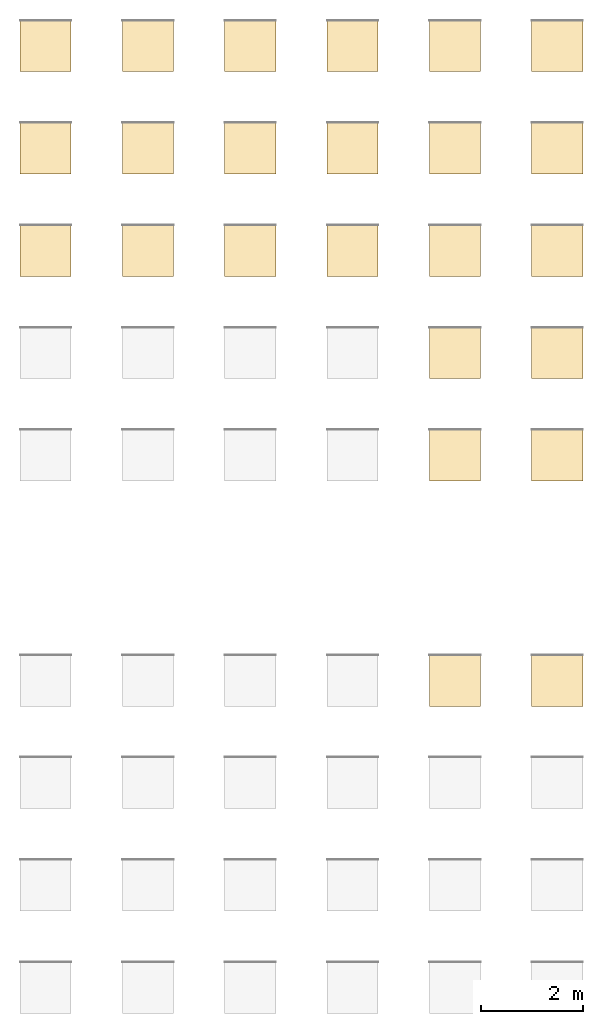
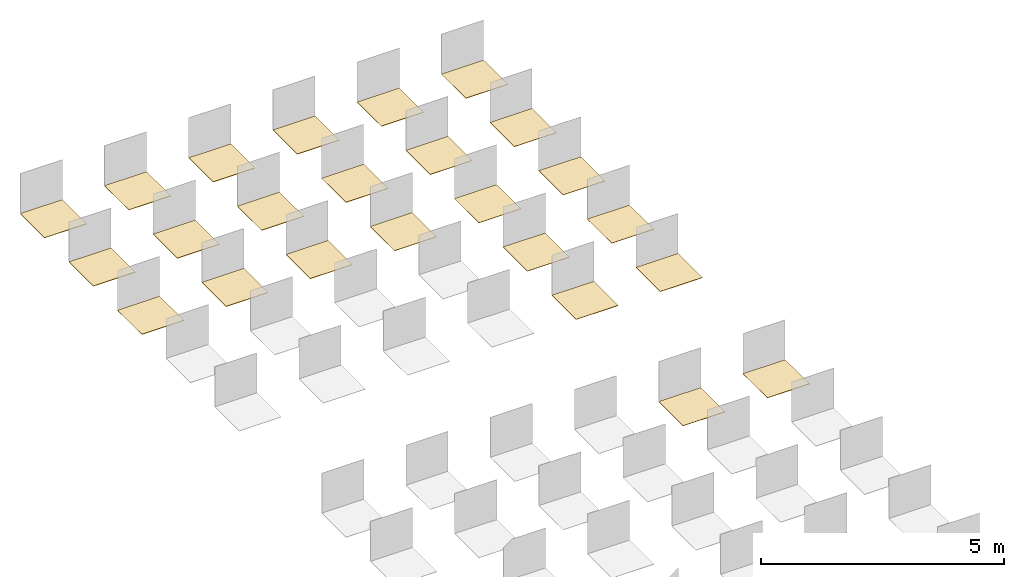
# One storey, part 4 of 4: 24 coverings.
"""IFC2X3 building model written with IfcOpenShell, lengths in millimetres."""

from ifc_helpers import new_model, entity, si_unit, converted_unit, derived_unit, direction, frame, frame_2d, origin, origin_2d_with_axis, place, context, subcontext, project, spatial, rectangle, extrude, material, layer, layer_set, layer_usage, type_object, element, save


model = new_model("IFC2X3")

# Units and contexts
model_context = context("Model", 3, precision=0.01, world=origin(), true_north=direction((6.12303176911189e-17, 1.0)))
body_context = subcontext(model_context, "Body", "Model", "MODEL_VIEW")
ifc_project = project(units=[si_unit("LENGTHUNIT", "METRE", prefix="MILLI"), si_unit("AREAUNIT", "SQUARE_METRE"), si_unit("VOLUMEUNIT", "CUBIC_METRE"), converted_unit("PLANEANGLEUNIT", "DEGREE", entity("IfcRatioMeasure", 0.0174532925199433), si_unit("PLANEANGLEUNIT", "RADIAN"), dimensions=[0, 0, 0, 0, 0, 0, 0]), si_unit("MASSUNIT", "GRAM", prefix="KILO"), derived_unit("MASSDENSITYUNIT", [(si_unit("MASSUNIT", "GRAM", prefix="KILO"), 1), (si_unit("LENGTHUNIT", "METRE"), -3)]), derived_unit("MOMENTOFINERTIAUNIT", [(si_unit("LENGTHUNIT", "METRE"), 4)]), si_unit("TIMEUNIT", "SECOND"), si_unit("FREQUENCYUNIT", "HERTZ"), si_unit("THERMODYNAMICTEMPERATUREUNIT", "DEGREE_CELSIUS"), derived_unit("THERMALTRANSMITTANCEUNIT", [(si_unit("MASSUNIT", "GRAM", prefix="KILO"), 1), (si_unit("THERMODYNAMICTEMPERATUREUNIT", "KELVIN"), -1), (si_unit("TIMEUNIT", "SECOND"), -3)]), derived_unit("VOLUMETRICFLOWRATEUNIT", [(si_unit("LENGTHUNIT", "METRE"), 3), (si_unit("TIMEUNIT", "SECOND"), -1)]), si_unit("ELECTRICCURRENTUNIT", "AMPERE"), si_unit("ELECTRICVOLTAGEUNIT", "VOLT"), si_unit("POWERUNIT", "WATT"), si_unit("FORCEUNIT", "NEWTON", prefix="KILO"), si_unit("ILLUMINANCEUNIT", "LUX"), si_unit("LUMINOUSFLUXUNIT", "LUMEN"), si_unit("LUMINOUSINTENSITYUNIT", "CANDELA"), derived_unit("USERDEFINED", [(si_unit("MASSUNIT", "GRAM", prefix="KILO"), -1), (si_unit("LENGTHUNIT", "METRE"), -2), (si_unit("TIMEUNIT", "SECOND"), 3), (si_unit("LUMINOUSFLUXUNIT", "LUMEN"), 1)]), derived_unit("LINEARVELOCITYUNIT", [(si_unit("LENGTHUNIT", "METRE"), 1), (si_unit("TIMEUNIT", "SECOND"), -1)]), si_unit("PRESSUREUNIT", "PASCAL"), derived_unit("USERDEFINED", [(si_unit("LENGTHUNIT", "METRE"), -2), (si_unit("MASSUNIT", "GRAM", prefix="KILO"), 1), (si_unit("TIMEUNIT", "SECOND"), -2)]), derived_unit("LINEARFORCEUNIT", [(si_unit("MASSUNIT", "GRAM", prefix="KILO"), 1), (si_unit("LENGTHUNIT", "METRE"), 1), (si_unit("TIMEUNIT", "SECOND"), -2), (si_unit("LENGTHUNIT", "METRE"), -1)]), derived_unit("PLANARFORCEUNIT", [(si_unit("MASSUNIT", "GRAM", prefix="KILO"), 1), (si_unit("LENGTHUNIT", "METRE"), 1), (si_unit("TIMEUNIT", "SECOND"), -2), (si_unit("LENGTHUNIT", "METRE"), -2)])], contexts=[model_context])

# Site, building, storey
site_placement = place(None, origin())
site = spatial("IfcSite", under=ifc_project, at=site_placement, Name="Default", CompositionType="ELEMENT")
building_placement = place(site_placement, origin())
building = spatial("IfcBuilding", under=site, at=building_placement, CompositionType="ELEMENT")
storey_placement = place(building_placement, origin())
storey = spatial("IfcBuildingStorey", under=building, at=storey_placement, Name="Level 1", CompositionType="ELEMENT", Elevation=0.0)

# Coverings
ifc_material_1 = material(Name="REVIGRÉS-OMNISTONE-BASE-60x120-MATTRECT-BONE")
ifc_layer_1 = layer(ifc_material_1, 9.8)
ifc_layer_set_1 = layer_set([ifc_layer_1], Name="Floor:REVIGRÉS-OMNISTONE-BASE-60X120-MATTRECT-BONE")
ifc_layer_usage_1 = layer_usage(ifc_layer_set_1, "AXIS3", "POSITIVE", 0.0)
covering_type_1 = type_object("IfcCoveringType", Name="Floor:REVIGRÉS-OMNISTONE-BASE-60X120-MATTRECT-BONE", PredefinedType="CLADDING", material=ifc_layer_set_1)
covering_1_placement = place(storey_placement, origin())
element("IfcCovering", 1, at=covering_1_placement, inside=storey, type_object=covering_type_1, material=ifc_layer_usage_1, Name="Floor:REVIGRÉS-OMNISTONE-BASE-60X120-MATTRECT-BONE", ObjectType="Floor:REVIGRÉS-OMNISTONE-BASE-60X120-MATTRECT-BONE", PredefinedType="CLADDING", context=body_context, shape_type="SweptSolid", body=[
    extrude(rectangle(XDim=1000.0, YDim=1000.0, at=frame_2d((1.08002495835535e-12, 0.0), x_axis=(1.0, 0.0))), frame((508.223884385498, 14311.2034685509, 0.0), z_axis=(0.0, 0.0, -1.0), x_axis=(0.0, 1.0, 0.0)), (0.0, 0.0, 1.0), 9.8),
])
ifc_material_2 = material(Name="REVIGRÉS-OMNISTONE-BASE-45x90-MATTRECT-BONE")
ifc_layer_2 = layer(ifc_material_2, 10.5)
ifc_layer_set_2 = layer_set([ifc_layer_2], Name="Floor:REVIGRÉS-OMNISTONE-BASE-45X90-MATTRECT-BONE")
ifc_layer_usage_2 = layer_usage(ifc_layer_set_2, "AXIS3", "POSITIVE", 0.0)
covering_type_2 = type_object("IfcCoveringType", Name="Floor:REVIGRÉS-OMNISTONE-BASE-45X90-MATTRECT-BONE", PredefinedType="CLADDING", material=ifc_layer_set_2)
covering_2_placement = place(storey_placement, origin())
element("IfcCovering", 2, at=covering_2_placement, inside=storey, type_object=covering_type_2, material=ifc_layer_usage_2, Name="Floor:REVIGRÉS-OMNISTONE-BASE-45X90-MATTRECT-BONE", ObjectType="Floor:REVIGRÉS-OMNISTONE-BASE-45X90-MATTRECT-BONE", PredefinedType="CLADDING", context=body_context, shape_type="SweptSolid", body=[
    extrude(rectangle(XDim=1000.0, YDim=1000.0, at=frame_2d((1.08002495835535e-12, 0.0), x_axis=(1.0, 0.0))), frame((508.223884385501, 16311.2034685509, 0.0), z_axis=(0.0, 0.0, -1.0), x_axis=(0.0, 1.0, 0.0)), (0.0, 0.0, 1.0), 10.5),
])
ifc_material_3 = material(Name="REVIGRÉS-OMNISTONE-BASE-90x90-MATTRECT-BONE")
ifc_layer_3 = layer(ifc_material_3, 10.5)
ifc_layer_set_3 = layer_set([ifc_layer_3], Name="Floor:REVIGRÉS-OMNISTONE-BASE-90X90-MATTRECT-BONE")
ifc_layer_usage_3 = layer_usage(ifc_layer_set_3, "AXIS3", "POSITIVE", 0.0)
covering_type_3 = type_object("IfcCoveringType", Name="Floor:REVIGRÉS-OMNISTONE-BASE-90X90-MATTRECT-BONE", PredefinedType="CLADDING", material=ifc_layer_set_3)
covering_3_placement = place(storey_placement, origin())
element("IfcCovering", 3, at=covering_3_placement, inside=storey, type_object=covering_type_3, material=ifc_layer_usage_3, Name="Floor:REVIGRÉS-OMNISTONE-BASE-90X90-MATTRECT-BONE", ObjectType="Floor:REVIGRÉS-OMNISTONE-BASE-90X90-MATTRECT-BONE", PredefinedType="CLADDING", context=body_context, shape_type="SweptSolid", body=[
    extrude(rectangle(XDim=1000.0, YDim=1000.0, at=frame_2d((1.08002495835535e-12, 0.0), x_axis=(1.0, 0.0))), frame((508.223884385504, 18311.2034685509, 0.0), z_axis=(0.0, 0.0, -1.0), x_axis=(0.0, 1.0, 0.0)), (0.0, 0.0, 1.0), 10.5),
])
ifc_material_4 = material(Name="REVIGRÉS-OMNISTONE-BASE-60x120-SOFT-BONE")
ifc_layer_4 = layer(ifc_material_4, 9.8)
ifc_layer_set_4 = layer_set([ifc_layer_4], Name="Floor:REVIGRÉS-OMNISTONE-BASE-60X120-SOFT-BONE")
ifc_layer_usage_4 = layer_usage(ifc_layer_set_4, "AXIS3", "POSITIVE", 0.0)
covering_type_4 = type_object("IfcCoveringType", Name="Floor:REVIGRÉS-OMNISTONE-BASE-60X120-SOFT-BONE", PredefinedType="CLADDING", material=ifc_layer_set_4)
covering_4_placement = place(storey_placement, origin())
element("IfcCovering", 4, at=covering_4_placement, inside=storey, type_object=covering_type_4, material=ifc_layer_usage_4, Name="Floor:REVIGRÉS-OMNISTONE-BASE-60X120-SOFT-BONE", ObjectType="Floor:REVIGRÉS-OMNISTONE-BASE-60X120-SOFT-BONE", PredefinedType="CLADDING", context=body_context, shape_type="SweptSolid", body=[
    extrude(rectangle(XDim=1000.0, YDim=1000.0, at=frame_2d((1.08002495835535e-12, 2.8421709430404e-13), x_axis=(1.0, 0.0))), frame((2508.22388438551, 14311.2034685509, 0.0), z_axis=(0.0, 0.0, -1.0), x_axis=(0.0, 1.0, 0.0)), (0.0, 0.0, 1.0), 9.8),
])
ifc_material_5 = material(Name="REVIGRÉS-OMNISTONE-BASE-45x90-SOFT-BONE")
ifc_layer_5 = layer(ifc_material_5, 10.5)
ifc_layer_set_5 = layer_set([ifc_layer_5], Name="Floor:REVIGRÉS-OMNISTONE-BASE-45X90-SOFT-BONE")
ifc_layer_usage_5 = layer_usage(ifc_layer_set_5, "AXIS3", "POSITIVE", 0.0)
covering_type_5 = type_object("IfcCoveringType", Name="Floor:REVIGRÉS-OMNISTONE-BASE-45X90-SOFT-BONE", PredefinedType="CLADDING", material=ifc_layer_set_5)
covering_5_placement = place(storey_placement, origin())
element("IfcCovering", 5, at=covering_5_placement, inside=storey, type_object=covering_type_5, material=ifc_layer_usage_5, Name="Floor:REVIGRÉS-OMNISTONE-BASE-45X90-SOFT-BONE", ObjectType="Floor:REVIGRÉS-OMNISTONE-BASE-45X90-SOFT-BONE", PredefinedType="CLADDING", context=body_context, shape_type="SweptSolid", body=[
    extrude(rectangle(XDim=1000.0, YDim=1000.0, at=frame_2d((-1.08002495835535e-12, 2.8421709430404e-13), x_axis=(1.0, 0.0))), frame((2508.22388438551, 16311.2034685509, 0.0), z_axis=(0.0, 0.0, -1.0), x_axis=(0.0, 1.0, 0.0)), (0.0, 0.0, 1.0), 10.5),
])
ifc_material_6 = material(Name="REVIGRÉS-OMNISTONE-BASE-90x90-SOFT-BONE")
ifc_layer_6 = layer(ifc_material_6, 10.5)
ifc_layer_set_6 = layer_set([ifc_layer_6], Name="Floor:REVIGRÉS-OMNISTONE-BASE-90X90-SOFT-BONE")
ifc_layer_usage_6 = layer_usage(ifc_layer_set_6, "AXIS3", "POSITIVE", 0.0)
covering_type_6 = type_object("IfcCoveringType", Name="Floor:REVIGRÉS-OMNISTONE-BASE-90X90-SOFT-BONE", PredefinedType="CLADDING", material=ifc_layer_set_6)
covering_6_placement = place(storey_placement, origin())
element("IfcCovering", 6, at=covering_6_placement, inside=storey, type_object=covering_type_6, material=ifc_layer_usage_6, Name="Floor:REVIGRÉS-OMNISTONE-BASE-90X90-SOFT-BONE", ObjectType="Floor:REVIGRÉS-OMNISTONE-BASE-90X90-SOFT-BONE", PredefinedType="CLADDING", context=body_context, shape_type="SweptSolid", body=[
    extrude(rectangle(XDim=1000.0, YDim=1000.0, at=frame_2d((-1.08002495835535e-12, 2.8421709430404e-13), x_axis=(1.0, 0.0))), frame((2508.22388438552, 18311.2034685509, 0.0), z_axis=(0.0, 0.0, -1.0), x_axis=(0.0, 1.0, 0.0)), (0.0, 0.0, 1.0), 10.5),
])
ifc_material_7 = material(Name="REVIGRÉS-OMNISTONE-BASE-60x120-MATTRECT-ICE")
ifc_layer_7 = layer(ifc_material_7, 9.8)
ifc_layer_set_7 = layer_set([ifc_layer_7], Name="Floor:REVIGRÉS-OMNISTONE-BASE-60X120-MATTRECT-ICE")
ifc_layer_usage_7 = layer_usage(ifc_layer_set_7, "AXIS3", "POSITIVE", 0.0)
covering_type_7 = type_object("IfcCoveringType", Name="Floor:REVIGRÉS-OMNISTONE-BASE-60X120-MATTRECT-ICE", PredefinedType="CLADDING", material=ifc_layer_set_7)
covering_7_placement = place(storey_placement, origin())
element("IfcCovering", 7, at=covering_7_placement, inside=storey, type_object=covering_type_7, material=ifc_layer_usage_7, Name="Floor:REVIGRÉS-OMNISTONE-BASE-60X120-MATTRECT-ICE", ObjectType="Floor:REVIGRÉS-OMNISTONE-BASE-60X120-MATTRECT-ICE", PredefinedType="CLADDING", context=body_context, shape_type="SweptSolid", body=[
    extrude(rectangle(XDim=1000.0, YDim=1000.0, at=frame_2d((1.08002495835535e-12, 0.0), x_axis=(1.0, 0.0))), frame((4508.22388438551, 14311.2034685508, 0.0), z_axis=(0.0, 0.0, -1.0), x_axis=(0.0, 1.0, 0.0)), (0.0, 0.0, 1.0), 9.8),
])
ifc_material_8 = material(Name="REVIGRÉS-OMNISTONE-BASE-45x90-MATTRECT-ICE")
ifc_layer_8 = layer(ifc_material_8, 10.5)
ifc_layer_set_8 = layer_set([ifc_layer_8], Name="Floor:REVIGRÉS-OMNISTONE-BASE-45X90-MATTRECT-ICE")
ifc_layer_usage_8 = layer_usage(ifc_layer_set_8, "AXIS3", "POSITIVE", 0.0)
covering_type_8 = type_object("IfcCoveringType", Name="Floor:REVIGRÉS-OMNISTONE-BASE-45X90-MATTRECT-ICE", PredefinedType="CLADDING", material=ifc_layer_set_8)
covering_8_placement = place(storey_placement, origin())
element("IfcCovering", 8, at=covering_8_placement, inside=storey, type_object=covering_type_8, material=ifc_layer_usage_8, Name="Floor:REVIGRÉS-OMNISTONE-BASE-45X90-MATTRECT-ICE", ObjectType="Floor:REVIGRÉS-OMNISTONE-BASE-45X90-MATTRECT-ICE", PredefinedType="CLADDING", context=body_context, shape_type="SweptSolid", body=[
    extrude(rectangle(XDim=1000.0, YDim=1000.0, at=frame_2d((1.08002495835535e-12, 0.0), x_axis=(1.0, 0.0))), frame((4508.22388438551, 16311.2034685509, 0.0), z_axis=(0.0, 0.0, -1.0), x_axis=(0.0, 1.0, 0.0)), (0.0, 0.0, 1.0), 10.5),
])
ifc_material_9 = material(Name="REVIGRÉS-OMNISTONE-BASE-90x90-MATTRECT-ICE")
ifc_layer_9 = layer(ifc_material_9, 10.5)
ifc_layer_set_9 = layer_set([ifc_layer_9], Name="Floor:REVIGRÉS-OMNISTONE-BASE-90X90-MATTRECT-ICE")
ifc_layer_usage_9 = layer_usage(ifc_layer_set_9, "AXIS3", "POSITIVE", 0.0)
covering_type_9 = type_object("IfcCoveringType", Name="Floor:REVIGRÉS-OMNISTONE-BASE-90X90-MATTRECT-ICE", PredefinedType="CLADDING", material=ifc_layer_set_9)
covering_9_placement = place(storey_placement, origin())
element("IfcCovering", 9, at=covering_9_placement, inside=storey, type_object=covering_type_9, material=ifc_layer_usage_9, Name="Floor:REVIGRÉS-OMNISTONE-BASE-90X90-MATTRECT-ICE", ObjectType="Floor:REVIGRÉS-OMNISTONE-BASE-90X90-MATTRECT-ICE", PredefinedType="CLADDING", context=body_context, shape_type="SweptSolid", body=[
    extrude(rectangle(XDim=1000.0, YDim=1000.0, at=frame_2d((1.08002495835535e-12, 0.0), x_axis=(1.0, 0.0))), frame((4508.22388438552, 18311.2034685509, 0.0), z_axis=(0.0, 0.0, -1.0), x_axis=(0.0, 1.0, 0.0)), (0.0, 0.0, 1.0), 10.5),
])
ifc_material_10 = material(Name="REVIGRÉS-OMNISTONE-BASE-60x120-SOFT-ICE")
ifc_layer_10 = layer(ifc_material_10, 9.8)
ifc_layer_set_10 = layer_set([ifc_layer_10], Name="Floor:REVIGRÉS-OMNISTONE-BASE-60X120-SOFT-ICE")
ifc_layer_usage_10 = layer_usage(ifc_layer_set_10, "AXIS3", "POSITIVE", 0.0)
covering_type_10 = type_object("IfcCoveringType", Name="Floor:REVIGRÉS-OMNISTONE-BASE-60X120-SOFT-ICE", PredefinedType="CLADDING", material=ifc_layer_set_10)
covering_10_placement = place(storey_placement, origin())
element("IfcCovering", 10, at=covering_10_placement, inside=storey, type_object=covering_type_10, material=ifc_layer_usage_10, Name="Floor:REVIGRÉS-OMNISTONE-BASE-60X120-SOFT-ICE", ObjectType="Floor:REVIGRÉS-OMNISTONE-BASE-60X120-SOFT-ICE", PredefinedType="CLADDING", context=body_context, shape_type="SweptSolid", body=[
    extrude(rectangle(XDim=1000.0, YDim=999.999999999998, at=frame_2d((1.08002495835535e-12, 0.0), x_axis=(1.0, 0.0))), frame((6508.22388438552, 14311.2034685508, 0.0), z_axis=(0.0, 0.0, -1.0), x_axis=(0.0, 1.0, 0.0)), (0.0, 0.0, 1.0), 9.8),
])
ifc_material_11 = material(Name="REVIGRÉS-OMNISTONE-BASE-45x90-SOFT-ICE")
ifc_layer_11 = layer(ifc_material_11, 10.5)
ifc_layer_set_11 = layer_set([ifc_layer_11], Name="Floor:REVIGRÉS-OMNISTONE-BASE-45X90-SOFT-ICE")
ifc_layer_usage_11 = layer_usage(ifc_layer_set_11, "AXIS3", "POSITIVE", 0.0)
covering_type_11 = type_object("IfcCoveringType", Name="Floor:REVIGRÉS-OMNISTONE-BASE-45X90-SOFT-ICE", PredefinedType="CLADDING", material=ifc_layer_set_11)
covering_11_placement = place(storey_placement, origin())
element("IfcCovering", 11, at=covering_11_placement, inside=storey, type_object=covering_type_11, material=ifc_layer_usage_11, Name="Floor:REVIGRÉS-OMNISTONE-BASE-45X90-SOFT-ICE", ObjectType="Floor:REVIGRÉS-OMNISTONE-BASE-45X90-SOFT-ICE", PredefinedType="CLADDING", context=body_context, shape_type="SweptSolid", body=[
    extrude(rectangle(XDim=1000.0, YDim=1000.0, at=frame_2d((1.08002495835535e-12, 0.0), x_axis=(1.0, 0.0))), frame((6508.22388438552, 16311.2034685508, 0.0), z_axis=(0.0, 0.0, -1.0), x_axis=(0.0, 1.0, 0.0)), (0.0, 0.0, 1.0), 10.5),
])
ifc_material_12 = material(Name="REVIGRÉS-OMNISTONE-BASE-90x90-SOFT-ICE")
ifc_layer_12 = layer(ifc_material_12, 10.5)
ifc_layer_set_12 = layer_set([ifc_layer_12], Name="Floor:REVIGRÉS-OMNISTONE-BASE-90X90-SOFT-ICE")
ifc_layer_usage_12 = layer_usage(ifc_layer_set_12, "AXIS3", "POSITIVE", 0.0)
covering_type_12 = type_object("IfcCoveringType", Name="Floor:REVIGRÉS-OMNISTONE-BASE-90X90-SOFT-ICE", PredefinedType="CLADDING", material=ifc_layer_set_12)
covering_12_placement = place(storey_placement, origin())
element("IfcCovering", 12, at=covering_12_placement, inside=storey, type_object=covering_type_12, material=ifc_layer_usage_12, Name="Floor:REVIGRÉS-OMNISTONE-BASE-90X90-SOFT-ICE", ObjectType="Floor:REVIGRÉS-OMNISTONE-BASE-90X90-SOFT-ICE", PredefinedType="CLADDING", context=body_context, shape_type="SweptSolid", body=[
    extrude(rectangle(XDim=1000.0, YDim=1000.0, at=frame_2d((1.08002495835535e-12, 0.0), x_axis=(1.0, 0.0))), frame((6508.22388438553, 18311.2034685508, 0.0), z_axis=(0.0, 0.0, -1.0), x_axis=(0.0, 1.0, 0.0)), (0.0, 0.0, 1.0), 10.5),
])
ifc_material_13 = material(Name="REVIGRÉS-OMNISTONE-BASE-30x60-MATTRECT-IRON")
ifc_layer_13 = layer(ifc_material_13, 9.8)
ifc_layer_set_13 = layer_set([ifc_layer_13], Name="Floor:REVIGRÉS-OMNISTONE-BASE-30X60-MATTRECT-IRON")
ifc_layer_usage_13 = layer_usage(ifc_layer_set_13, "AXIS3", "POSITIVE", 0.0)
covering_type_13 = type_object("IfcCoveringType", Name="Floor:REVIGRÉS-OMNISTONE-BASE-30X60-MATTRECT-IRON", PredefinedType="CLADDING", material=ifc_layer_set_13)
covering_13_placement = place(storey_placement, origin())
element("IfcCovering", 13, at=covering_13_placement, inside=storey, type_object=covering_type_13, material=ifc_layer_usage_13, Name="Floor:REVIGRÉS-OMNISTONE-BASE-30X60-MATTRECT-IRON", ObjectType="Floor:REVIGRÉS-OMNISTONE-BASE-30X60-MATTRECT-IRON", PredefinedType="CLADDING", context=body_context, shape_type="SweptSolid", body=[
    extrude(rectangle(XDim=1000.0, YDim=999.999999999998, at=frame_2d((-1.08002495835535e-12, 0.0), x_axis=(1.0, 0.0))), frame((8508.22388438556, 10311.2034685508, 0.0), z_axis=(0.0, 0.0, -1.0), x_axis=(0.0, 1.0, 0.0)), (0.0, 0.0, 1.0), 9.8),
])
ifc_material_14 = material(Name="REVIGRÉS-OMNISTONE-BASE-60x60-MATTRECT-IRON")
ifc_layer_14 = layer(ifc_material_14, 9.8)
ifc_layer_set_14 = layer_set([ifc_layer_14], Name="Floor:REVIGRÉS-OMNISTONE-BASE-60X60-MATTRECT-IRON")
ifc_layer_usage_14 = layer_usage(ifc_layer_set_14, "AXIS3", "POSITIVE", 0.0)
covering_type_14 = type_object("IfcCoveringType", Name="Floor:REVIGRÉS-OMNISTONE-BASE-60X60-MATTRECT-IRON", PredefinedType="CLADDING", material=ifc_layer_set_14)
covering_14_placement = place(storey_placement, origin())
element("IfcCovering", 14, at=covering_14_placement, inside=storey, type_object=covering_type_14, material=ifc_layer_usage_14, Name="Floor:REVIGRÉS-OMNISTONE-BASE-60X60-MATTRECT-IRON", ObjectType="Floor:REVIGRÉS-OMNISTONE-BASE-60X60-MATTRECT-IRON", PredefinedType="CLADDING", context=body_context, shape_type="SweptSolid", body=[
    extrude(rectangle(XDim=1000.0, YDim=1000.0, at=frame_2d((-1.08002495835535e-12, 0.0), x_axis=(1.0, 0.0))), frame((8508.22388438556, 12311.2034685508, 0.0), z_axis=(0.0, 0.0, -1.0), x_axis=(0.0, 1.0, 0.0)), (0.0, 0.0, 1.0), 9.8),
])
ifc_material_15 = material(Name="REVIGRÉS-OMNISTONE-BASE-60x120-MATTRECT-IRON")
ifc_layer_15 = layer(ifc_material_15, 9.8)
ifc_layer_set_15 = layer_set([ifc_layer_15], Name="Floor:REVIGRÉS-OMNISTONE-BASE-60X120-MATTRECT-IRON")
ifc_layer_usage_15 = layer_usage(ifc_layer_set_15, "AXIS3", "POSITIVE", 0.0)
covering_type_15 = type_object("IfcCoveringType", Name="Floor:REVIGRÉS-OMNISTONE-BASE-60X120-MATTRECT-IRON", PredefinedType="CLADDING", material=ifc_layer_set_15)
covering_15_placement = place(storey_placement, origin())
element("IfcCovering", 15, at=covering_15_placement, inside=storey, type_object=covering_type_15, material=ifc_layer_usage_15, Name="Floor:REVIGRÉS-OMNISTONE-BASE-60X120-MATTRECT-IRON", ObjectType="Floor:REVIGRÉS-OMNISTONE-BASE-60X120-MATTRECT-IRON", PredefinedType="CLADDING", context=body_context, shape_type="SweptSolid", body=[
    extrude(rectangle(XDim=1000.0, YDim=1000.0, at=frame_2d((1.08002495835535e-12, 0.0), x_axis=(1.0, 0.0))), frame((8508.22388438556, 14311.2034685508, 0.0), z_axis=(0.0, 0.0, -1.0), x_axis=(0.0, 1.0, 0.0)), (0.0, 0.0, 1.0), 9.8),
])
ifc_material_16 = material(Name="REVIGRÉS-OMNISTONE-BASE-45x90-MATTRECT-IRON")
ifc_layer_16 = layer(ifc_material_16, 10.5)
ifc_layer_set_16 = layer_set([ifc_layer_16], Name="Floor:REVIGRÉS-OMNISTONE-BASE-45X90-MATTRECT-IRON")
ifc_layer_usage_16 = layer_usage(ifc_layer_set_16, "AXIS3", "POSITIVE", 0.0)
covering_type_16 = type_object("IfcCoveringType", Name="Floor:REVIGRÉS-OMNISTONE-BASE-45X90-MATTRECT-IRON", PredefinedType="CLADDING", material=ifc_layer_set_16)
covering_16_placement = place(storey_placement, origin())
element("IfcCovering", 16, at=covering_16_placement, inside=storey, type_object=covering_type_16, material=ifc_layer_usage_16, Name="Floor:REVIGRÉS-OMNISTONE-BASE-45X90-MATTRECT-IRON", ObjectType="Floor:REVIGRÉS-OMNISTONE-BASE-45X90-MATTRECT-IRON", PredefinedType="CLADDING", context=body_context, shape_type="SweptSolid", body=[
    extrude(rectangle(XDim=1000.0, YDim=1000.0, at=frame_2d((1.08002495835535e-12, 0.0), x_axis=(1.0, 0.0))), frame((8508.22388438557, 16311.2034685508, 0.0), z_axis=(0.0, 0.0, -1.0), x_axis=(0.0, 1.0, 0.0)), (0.0, 0.0, 1.0), 10.5),
])
ifc_material_17 = material(Name="REVIGRÉS-OMNISTONE-BASE-90x90-MATTRECT-IRON")
ifc_layer_17 = layer(ifc_material_17, 10.5)
ifc_layer_set_17 = layer_set([ifc_layer_17], Name="Floor:REVIGRÉS-OMNISTONE-BASE-90X90-MATTRECT-IRON")
ifc_layer_usage_17 = layer_usage(ifc_layer_set_17, "AXIS3", "POSITIVE", 0.0)
covering_type_17 = type_object("IfcCoveringType", Name="Floor:REVIGRÉS-OMNISTONE-BASE-90X90-MATTRECT-IRON", PredefinedType="CLADDING", material=ifc_layer_set_17)
covering_17_placement = place(storey_placement, origin())
element("IfcCovering", 17, at=covering_17_placement, inside=storey, type_object=covering_type_17, material=ifc_layer_usage_17, Name="Floor:REVIGRÉS-OMNISTONE-BASE-90X90-MATTRECT-IRON", ObjectType="Floor:REVIGRÉS-OMNISTONE-BASE-90X90-MATTRECT-IRON", PredefinedType="CLADDING", context=body_context, shape_type="SweptSolid", body=[
    extrude(rectangle(XDim=1000.0, YDim=999.999999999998, at=frame_2d((1.08002495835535e-12, 0.0), x_axis=(1.0, 0.0))), frame((8508.22388438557, 18311.2034685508, 0.0), z_axis=(0.0, 0.0, -1.0), x_axis=(0.0, 1.0, 0.0)), (0.0, 0.0, 1.0), 10.5),
])
ifc_material_18 = material(Name="REVIGRÉS-OMNISTONE-BASE-30x60-SOFT-IRON")
ifc_layer_18 = layer(ifc_material_18, 9.8)
ifc_layer_set_18 = layer_set([ifc_layer_18], Name="Floor:REVIGRÉS-OMNISTONE-BASE-30X60-SOFT-IRON")
ifc_layer_usage_18 = layer_usage(ifc_layer_set_18, "AXIS3", "POSITIVE", 0.0)
covering_type_18 = type_object("IfcCoveringType", Name="Floor:REVIGRÉS-OMNISTONE-BASE-30X60-SOFT-IRON", PredefinedType="CLADDING", material=ifc_layer_set_18)
covering_18_placement = place(storey_placement, origin())
element("IfcCovering", 18, at=covering_18_placement, inside=storey, type_object=covering_type_18, material=ifc_layer_usage_18, Name="Floor:REVIGRÉS-OMNISTONE-BASE-30X60-SOFT-IRON", ObjectType="Floor:REVIGRÉS-OMNISTONE-BASE-30X60-SOFT-IRON", PredefinedType="CLADDING", context=body_context, shape_type="SweptSolid", body=[
    extrude(rectangle(XDim=1000.0, YDim=999.999999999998, at=frame_2d((-1.08002495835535e-12, 0.0), x_axis=(1.0, 0.0))), frame((10508.2238843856, 10311.2034685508, 0.0), z_axis=(0.0, 0.0, -1.0), x_axis=(0.0, 1.0, 0.0)), (0.0, 0.0, 1.0), 9.8),
])
ifc_material_19 = material(Name="REVIGRÉS-OMNISTONE-BASE-60x60-SOFT-IRON")
ifc_layer_19 = layer(ifc_material_19, 9.8)
ifc_layer_set_19 = layer_set([ifc_layer_19], Name="Floor:REVIGRÉS-OMNISTONE-BASE-60X60-SOFT-IRON")
ifc_layer_usage_19 = layer_usage(ifc_layer_set_19, "AXIS3", "POSITIVE", 0.0)
covering_type_19 = type_object("IfcCoveringType", Name="Floor:REVIGRÉS-OMNISTONE-BASE-60X60-SOFT-IRON", PredefinedType="CLADDING", material=ifc_layer_set_19)
covering_19_placement = place(storey_placement, origin())
element("IfcCovering", 19, at=covering_19_placement, inside=storey, type_object=covering_type_19, material=ifc_layer_usage_19, Name="Floor:REVIGRÉS-OMNISTONE-BASE-60X60-SOFT-IRON", ObjectType="Floor:REVIGRÉS-OMNISTONE-BASE-60X60-SOFT-IRON", PredefinedType="CLADDING", context=body_context, shape_type="SweptSolid", body=[
    extrude(rectangle(XDim=1000.0, YDim=999.999999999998, at=frame_2d((-1.08002495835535e-12, 0.0), x_axis=(1.0, 0.0))), frame((10508.2238843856, 12311.2034685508, 0.0), z_axis=(0.0, 0.0, -1.0), x_axis=(0.0, 1.0, 0.0)), (0.0, 0.0, 1.0), 9.8),
])
ifc_material_20 = material(Name="REVIGRÉS-OMNISTONE-BASE-60x120-SOFT-IRON")
ifc_layer_20 = layer(ifc_material_20, 9.8)
ifc_layer_set_20 = layer_set([ifc_layer_20], Name="Floor:REVIGRÉS-OMNISTONE-BASE-60X120-SOFT-IRON")
ifc_layer_usage_20 = layer_usage(ifc_layer_set_20, "AXIS3", "POSITIVE", 0.0)
covering_type_20 = type_object("IfcCoveringType", Name="Floor:REVIGRÉS-OMNISTONE-BASE-60X120-SOFT-IRON", PredefinedType="CLADDING", material=ifc_layer_set_20)
covering_20_placement = place(storey_placement, origin())
element("IfcCovering", 20, at=covering_20_placement, inside=storey, type_object=covering_type_20, material=ifc_layer_usage_20, Name="Floor:REVIGRÉS-OMNISTONE-BASE-60X120-SOFT-IRON", ObjectType="Floor:REVIGRÉS-OMNISTONE-BASE-60X120-SOFT-IRON", PredefinedType="CLADDING", context=body_context, shape_type="SweptSolid", body=[
    extrude(rectangle(XDim=1000.0, YDim=999.999999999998, at=frame_2d((1.08002495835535e-12, 0.0), x_axis=(1.0, 0.0))), frame((10508.2238843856, 14311.2034685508, 0.0), z_axis=(0.0, 0.0, -1.0), x_axis=(0.0, 1.0, 0.0)), (0.0, 0.0, 1.0), 9.8),
])
ifc_material_21 = material(Name="REVIGRÉS-OMNISTONE-BASE-45x90-SOFT-IRON")
ifc_layer_21 = layer(ifc_material_21, 10.5)
ifc_layer_set_21 = layer_set([ifc_layer_21], Name="Floor:REVIGRÉS-OMNISTONE-BASE-45X90-SOFT-IRON")
ifc_layer_usage_21 = layer_usage(ifc_layer_set_21, "AXIS3", "POSITIVE", 0.0)
covering_type_21 = type_object("IfcCoveringType", Name="Floor:REVIGRÉS-OMNISTONE-BASE-45X90-SOFT-IRON", PredefinedType="CLADDING", material=ifc_layer_set_21)
covering_21_placement = place(storey_placement, origin())
element("IfcCovering", 21, at=covering_21_placement, inside=storey, type_object=covering_type_21, material=ifc_layer_usage_21, Name="Floor:REVIGRÉS-OMNISTONE-BASE-45X90-SOFT-IRON", ObjectType="Floor:REVIGRÉS-OMNISTONE-BASE-45X90-SOFT-IRON", PredefinedType="CLADDING", context=body_context, shape_type="SweptSolid", body=[
    extrude(rectangle(XDim=1000.0, YDim=999.999999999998, at=frame_2d((1.08002495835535e-12, 0.0), x_axis=(1.0, 0.0))), frame((10508.2238843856, 16311.2034685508, 0.0), z_axis=(0.0, 0.0, -1.0), x_axis=(0.0, 1.0, 0.0)), (0.0, 0.0, 1.0), 10.5),
])
ifc_material_22 = material(Name="REVIGRÉS-OMNISTONE-BASE-90x90-SOFT-IRON")
ifc_layer_22 = layer(ifc_material_22, 10.5)
ifc_layer_set_22 = layer_set([ifc_layer_22], Name="Floor:REVIGRÉS-OMNISTONE-BASE-90X90-SOFT-IRON")
ifc_layer_usage_22 = layer_usage(ifc_layer_set_22, "AXIS3", "POSITIVE", 0.0)
covering_type_22 = type_object("IfcCoveringType", Name="Floor:REVIGRÉS-OMNISTONE-BASE-90X90-SOFT-IRON", PredefinedType="CLADDING", material=ifc_layer_set_22)
covering_22_placement = place(storey_placement, origin())
element("IfcCovering", 22, at=covering_22_placement, inside=storey, type_object=covering_type_22, material=ifc_layer_usage_22, Name="Floor:REVIGRÉS-OMNISTONE-BASE-90X90-SOFT-IRON", ObjectType="Floor:REVIGRÉS-OMNISTONE-BASE-90X90-SOFT-IRON", PredefinedType="CLADDING", context=body_context, shape_type="SweptSolid", body=[
    extrude(rectangle(XDim=1000.0, YDim=999.999999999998, at=frame_2d((1.08002495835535e-12, 0.0), x_axis=(1.0, 0.0))), frame((10508.2238843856, 18311.2034685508, 0.0), z_axis=(0.0, 0.0, -1.0), x_axis=(0.0, 1.0, 0.0)), (0.0, 0.0, 1.0), 10.5),
])
ifc_material_23 = material(Name="REVIGRÉS-OMNISTONE-BASE-90x90-MATTRECT-ROPE")
ifc_layer_23 = layer(ifc_material_23, 10.5)
ifc_layer_set_23 = layer_set([ifc_layer_23], Name="Floor:REVIGRÉS-OMNISTONE-BASE-90X90-MATTRECT-ROPE")
ifc_layer_usage_23 = layer_usage(ifc_layer_set_23, "AXIS3", "POSITIVE", 0.0)
covering_type_23 = type_object("IfcCoveringType", Name="Floor:REVIGRÉS-OMNISTONE-BASE-90X90-MATTRECT-ROPE", PredefinedType="CLADDING", material=ifc_layer_set_23)
covering_23_placement = place(storey_placement, origin())
element("IfcCovering", 23, at=covering_23_placement, inside=storey, type_object=covering_type_23, material=ifc_layer_usage_23, Name="Floor:REVIGRÉS-OMNISTONE-BASE-90X90-MATTRECT-ROPE", ObjectType="Floor:REVIGRÉS-OMNISTONE-BASE-90X90-MATTRECT-ROPE", PredefinedType="CLADDING", context=body_context, shape_type="SweptSolid", body=[
    extrude(rectangle(XDim=1000.0, YDim=999.999999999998, at=origin_2d_with_axis()), frame((8508.22388438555, 5911.20346855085, 0.0), z_axis=(0.0, 0.0, -1.0), x_axis=(0.0, 1.0, 0.0)), (0.0, 0.0, 1.0), 10.5),
])
ifc_material_24 = material(Name="REVIGRÉS-OMNISTONE-BASE-90x90-SOFT-ROPE")
ifc_layer_24 = layer(ifc_material_24, 10.5)
ifc_layer_set_24 = layer_set([ifc_layer_24], Name="Floor:REVIGRÉS-OMNISTONE-BASE-90X90-SOFT-ROPE")
ifc_layer_usage_24 = layer_usage(ifc_layer_set_24, "AXIS3", "POSITIVE", 0.0)
covering_type_24 = type_object("IfcCoveringType", Name="Floor:REVIGRÉS-OMNISTONE-BASE-90X90-SOFT-ROPE", PredefinedType="CLADDING", material=ifc_layer_set_24)
covering_24_placement = place(storey_placement, origin())
element("IfcCovering", 24, at=covering_24_placement, inside=storey, type_object=covering_type_24, material=ifc_layer_usage_24, Name="Floor:REVIGRÉS-OMNISTONE-BASE-90X90-SOFT-ROPE", ObjectType="Floor:REVIGRÉS-OMNISTONE-BASE-90X90-SOFT-ROPE", PredefinedType="CLADDING", context=body_context, shape_type="SweptSolid", body=[
    extrude(rectangle(XDim=1000.0, YDim=999.999999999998, at=origin_2d_with_axis()), frame((10508.2238843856, 5911.20346855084, 0.0), z_axis=(0.0, 0.0, -1.0), x_axis=(0.0, 1.0, 0.0)), (0.0, 0.0, 1.0), 10.5),
])

save(model, "model.ifc")
